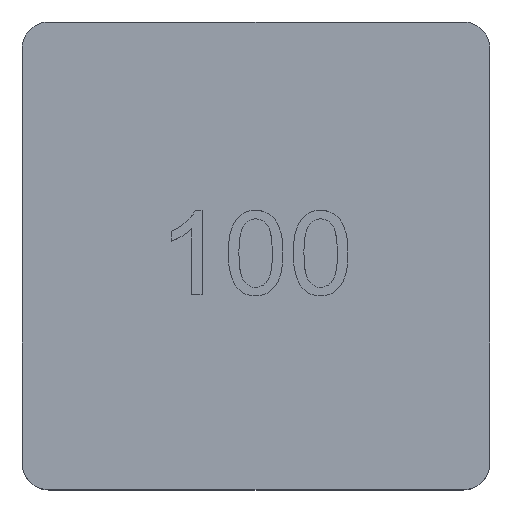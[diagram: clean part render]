
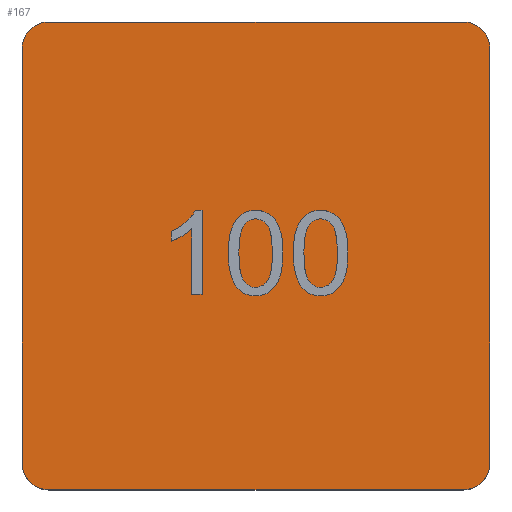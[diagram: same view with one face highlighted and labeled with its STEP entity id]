
A CAD part, top view. The second image highlights one B-rep face of the part: STEP entity #167.
In plain terms, the highlighted planar face has unit normal (0, 0, 1).
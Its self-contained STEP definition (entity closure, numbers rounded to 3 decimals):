
#51 = EDGE_CURVE('',#52,#54,#56,.T.);
#52 = VERTEX_POINT('',#53);
#53 = CARTESIAN_POINT('',(-4.,-3.55,4.2));
#54 = VERTEX_POINT('',#55);
#55 = CARTESIAN_POINT('',(-4.,3.55,4.2));
#56 = SURFACE_CURVE('',#57,(#61,#73),.PCURVE_S1.);
#57 = LINE('',#58,#59);
#58 = CARTESIAN_POINT('',(-4.,-4.,4.2));
#59 = VECTOR('',#60,1.);
#60 = DIRECTION('',(0.,1.,0.));
#61 = PCURVE('',#62,#67);
#62 = PLANE('',#63);
#63 = AXIS2_PLACEMENT_3D('',#64,#65,#66);
#64 = CARTESIAN_POINT('',(-4.,-4.,0.15));
#65 = DIRECTION('',(1.,0.,0.));
#66 = DIRECTION('',(0.,0.,1.));
#67 = DEFINITIONAL_REPRESENTATION('',(#68),#72);
#68 = LINE('',#69,#70);
#69 = CARTESIAN_POINT('',(4.05,0.));
#70 = VECTOR('',#71,1.);
#71 = DIRECTION('',(0.,-1.));
#72 = ( GEOMETRIC_REPRESENTATION_CONTEXT(2) 
PARAMETRIC_REPRESENTATION_CONTEXT() REPRESENTATION_CONTEXT('2D SPACE',''
  ) );
#73 = PCURVE('',#74,#79);
#74 = PLANE('',#75);
#75 = AXIS2_PLACEMENT_3D('',#76,#77,#78);
#76 = CARTESIAN_POINT('',(-4.,-4.,4.2));
#77 = DIRECTION('',(0.,0.,1.));
#78 = DIRECTION('',(1.,0.,0.));
#79 = DEFINITIONAL_REPRESENTATION('',(#80),#84);
#80 = LINE('',#81,#82);
#81 = CARTESIAN_POINT('',(0.,0.));
#82 = VECTOR('',#83,1.);
#83 = DIRECTION('',(0.,1.));
#84 = ( GEOMETRIC_REPRESENTATION_CONTEXT(2) 
PARAMETRIC_REPRESENTATION_CONTEXT() REPRESENTATION_CONTEXT('2D SPACE',''
  ) );
#102 = CYLINDRICAL_SURFACE('',#103,0.45);
#103 = AXIS2_PLACEMENT_3D('',#104,#105,#106);
#104 = CARTESIAN_POINT('',(-3.55,-3.55,0.15));
#105 = DIRECTION('',(0.,0.,1.));
#106 = DIRECTION('',(-1.,-0.,0.));
#156 = CYLINDRICAL_SURFACE('',#157,0.45);
#157 = AXIS2_PLACEMENT_3D('',#158,#159,#160);
#158 = CARTESIAN_POINT('',(-3.55,3.55,0.15));
#159 = DIRECTION('',(0.,0.,1.));
#160 = DIRECTION('',(-1.,-0.,0.));
#167 = ADVANCED_FACE('',(#168),#74,.T.);
#168 = FACE_BOUND('',#169,.T.);
#169 = EDGE_LOOP('',(#170,#171,#195,#223,#256,#284,#313,#341));
#170 = ORIENTED_EDGE('',*,*,#51,.F.);
#171 = ORIENTED_EDGE('',*,*,#172,.T.);
#172 = EDGE_CURVE('',#52,#173,#175,.T.);
#173 = VERTEX_POINT('',#174);
#174 = CARTESIAN_POINT('',(-3.55,-4.,4.2));
#175 = SURFACE_CURVE('',#176,(#181,#188),.PCURVE_S1.);
#176 = CIRCLE('',#177,0.45);
#177 = AXIS2_PLACEMENT_3D('',#178,#179,#180);
#178 = CARTESIAN_POINT('',(-3.55,-3.55,4.2));
#179 = DIRECTION('',(0.,0.,1.));
#180 = DIRECTION('',(0.,-1.,0.));
#181 = PCURVE('',#74,#182);
#182 = DEFINITIONAL_REPRESENTATION('',(#183),#187);
#183 = CIRCLE('',#184,0.45);
#184 = AXIS2_PLACEMENT_2D('',#185,#186);
#185 = CARTESIAN_POINT('',(0.45,0.45));
#186 = DIRECTION('',(0.,-1.));
#187 = ( GEOMETRIC_REPRESENTATION_CONTEXT(2) 
PARAMETRIC_REPRESENTATION_CONTEXT() REPRESENTATION_CONTEXT('2D SPACE',''
  ) );
#188 = PCURVE('',#102,#189);
#189 = DEFINITIONAL_REPRESENTATION('',(#190),#194);
#190 = LINE('',#191,#192);
#191 = CARTESIAN_POINT('',(-4.712,4.05));
#192 = VECTOR('',#193,1.);
#193 = DIRECTION('',(1.,0.));
#194 = ( GEOMETRIC_REPRESENTATION_CONTEXT(2) 
PARAMETRIC_REPRESENTATION_CONTEXT() REPRESENTATION_CONTEXT('2D SPACE',''
  ) );
#195 = ORIENTED_EDGE('',*,*,#196,.T.);
#196 = EDGE_CURVE('',#173,#197,#199,.T.);
#197 = VERTEX_POINT('',#198);
#198 = CARTESIAN_POINT('',(3.55,-4.,4.2));
#199 = SURFACE_CURVE('',#200,(#204,#211),.PCURVE_S1.);
#200 = LINE('',#201,#202);
#201 = CARTESIAN_POINT('',(-4.,-4.,4.2));
#202 = VECTOR('',#203,1.);
#203 = DIRECTION('',(1.,0.,0.));
#204 = PCURVE('',#74,#205);
#205 = DEFINITIONAL_REPRESENTATION('',(#206),#210);
#206 = LINE('',#207,#208);
#207 = CARTESIAN_POINT('',(0.,0.));
#208 = VECTOR('',#209,1.);
#209 = DIRECTION('',(1.,0.));
#210 = ( GEOMETRIC_REPRESENTATION_CONTEXT(2) 
PARAMETRIC_REPRESENTATION_CONTEXT() REPRESENTATION_CONTEXT('2D SPACE',''
  ) );
#211 = PCURVE('',#212,#217);
#212 = PLANE('',#213);
#213 = AXIS2_PLACEMENT_3D('',#214,#215,#216);
#214 = CARTESIAN_POINT('',(-4.,-4.,0.15));
#215 = DIRECTION('',(0.,1.,0.));
#216 = DIRECTION('',(0.,0.,1.));
#217 = DEFINITIONAL_REPRESENTATION('',(#218),#222);
#218 = LINE('',#219,#220);
#219 = CARTESIAN_POINT('',(4.05,0.));
#220 = VECTOR('',#221,1.);
#221 = DIRECTION('',(0.,1.));
#222 = ( GEOMETRIC_REPRESENTATION_CONTEXT(2) 
PARAMETRIC_REPRESENTATION_CONTEXT() REPRESENTATION_CONTEXT('2D SPACE',''
  ) );
#223 = ORIENTED_EDGE('',*,*,#224,.F.);
#224 = EDGE_CURVE('',#225,#197,#227,.T.);
#225 = VERTEX_POINT('',#226);
#226 = CARTESIAN_POINT('',(4.,-3.55,4.2));
#227 = SURFACE_CURVE('',#228,(#233,#244),.PCURVE_S1.);
#228 = CIRCLE('',#229,0.45);
#229 = AXIS2_PLACEMENT_3D('',#230,#231,#232);
#230 = CARTESIAN_POINT('',(3.55,-3.55,4.2));
#231 = DIRECTION('',(-0.,-0.,-1.));
#232 = DIRECTION('',(0.,-1.,0.));
#233 = PCURVE('',#74,#234);
#234 = DEFINITIONAL_REPRESENTATION('',(#235),#243);
#235 = ( BOUNDED_CURVE() B_SPLINE_CURVE(2,(#236,#237,#238,#239,#240,#241
,#242),.UNSPECIFIED.,.T.,.F.) B_SPLINE_CURVE_WITH_KNOTS((1,2,2,2,2,1),(
    -2.094,0.,2.094,4.189,6.283,
8.378),.UNSPECIFIED.) CURVE() GEOMETRIC_REPRESENTATION_ITEM() 
RATIONAL_B_SPLINE_CURVE((1.,0.5,1.,0.5,1.,0.5,1.)) REPRESENTATION_ITEM(
  '') );
#236 = CARTESIAN_POINT('',(7.55,0.));
#237 = CARTESIAN_POINT('',(6.771,0.));
#238 = CARTESIAN_POINT('',(7.16,0.675));
#239 = CARTESIAN_POINT('',(7.55,1.35));
#240 = CARTESIAN_POINT('',(7.94,0.675));
#241 = CARTESIAN_POINT('',(8.329,0.));
#242 = CARTESIAN_POINT('',(7.55,0.));
#243 = ( GEOMETRIC_REPRESENTATION_CONTEXT(2) 
PARAMETRIC_REPRESENTATION_CONTEXT() REPRESENTATION_CONTEXT('2D SPACE',''
  ) );
#244 = PCURVE('',#245,#250);
#245 = CYLINDRICAL_SURFACE('',#246,0.45);
#246 = AXIS2_PLACEMENT_3D('',#247,#248,#249);
#247 = CARTESIAN_POINT('',(3.55,-3.55,0.15));
#248 = DIRECTION('',(0.,0.,1.));
#249 = DIRECTION('',(1.,0.,-0.));
#250 = DEFINITIONAL_REPRESENTATION('',(#251),#255);
#251 = LINE('',#252,#253);
#252 = CARTESIAN_POINT('',(4.712,4.05));
#253 = VECTOR('',#254,1.);
#254 = DIRECTION('',(-1.,0.));
#255 = ( GEOMETRIC_REPRESENTATION_CONTEXT(2) 
PARAMETRIC_REPRESENTATION_CONTEXT() REPRESENTATION_CONTEXT('2D SPACE',''
  ) );
#256 = ORIENTED_EDGE('',*,*,#257,.T.);
#257 = EDGE_CURVE('',#225,#258,#260,.T.);
#258 = VERTEX_POINT('',#259);
#259 = CARTESIAN_POINT('',(4.,3.55,4.2));
#260 = SURFACE_CURVE('',#261,(#265,#272),.PCURVE_S1.);
#261 = LINE('',#262,#263);
#262 = CARTESIAN_POINT('',(4.,-4.,4.2));
#263 = VECTOR('',#264,1.);
#264 = DIRECTION('',(0.,1.,0.));
#265 = PCURVE('',#74,#266);
#266 = DEFINITIONAL_REPRESENTATION('',(#267),#271);
#267 = LINE('',#268,#269);
#268 = CARTESIAN_POINT('',(8.,0.));
#269 = VECTOR('',#270,1.);
#270 = DIRECTION('',(0.,1.));
#271 = ( GEOMETRIC_REPRESENTATION_CONTEXT(2) 
PARAMETRIC_REPRESENTATION_CONTEXT() REPRESENTATION_CONTEXT('2D SPACE',''
  ) );
#272 = PCURVE('',#273,#278);
#273 = PLANE('',#274);
#274 = AXIS2_PLACEMENT_3D('',#275,#276,#277);
#275 = CARTESIAN_POINT('',(4.,-4.,0.15));
#276 = DIRECTION('',(1.,0.,0.));
#277 = DIRECTION('',(0.,0.,1.));
#278 = DEFINITIONAL_REPRESENTATION('',(#279),#283);
#279 = LINE('',#280,#281);
#280 = CARTESIAN_POINT('',(4.05,0.));
#281 = VECTOR('',#282,1.);
#282 = DIRECTION('',(0.,-1.));
#283 = ( GEOMETRIC_REPRESENTATION_CONTEXT(2) 
PARAMETRIC_REPRESENTATION_CONTEXT() REPRESENTATION_CONTEXT('2D SPACE',''
  ) );
#284 = ORIENTED_EDGE('',*,*,#285,.T.);
#285 = EDGE_CURVE('',#258,#286,#288,.T.);
#286 = VERTEX_POINT('',#287);
#287 = CARTESIAN_POINT('',(3.55,4.,4.2));
#288 = SURFACE_CURVE('',#289,(#294,#301),.PCURVE_S1.);
#289 = CIRCLE('',#290,0.45);
#290 = AXIS2_PLACEMENT_3D('',#291,#292,#293);
#291 = CARTESIAN_POINT('',(3.55,3.55,4.2));
#292 = DIRECTION('',(0.,0.,1.));
#293 = DIRECTION('',(0.,-1.,0.));
#294 = PCURVE('',#74,#295);
#295 = DEFINITIONAL_REPRESENTATION('',(#296),#300);
#296 = CIRCLE('',#297,0.45);
#297 = AXIS2_PLACEMENT_2D('',#298,#299);
#298 = CARTESIAN_POINT('',(7.55,7.55));
#299 = DIRECTION('',(0.,-1.));
#300 = ( GEOMETRIC_REPRESENTATION_CONTEXT(2) 
PARAMETRIC_REPRESENTATION_CONTEXT() REPRESENTATION_CONTEXT('2D SPACE',''
  ) );
#301 = PCURVE('',#302,#307);
#302 = CYLINDRICAL_SURFACE('',#303,0.45);
#303 = AXIS2_PLACEMENT_3D('',#304,#305,#306);
#304 = CARTESIAN_POINT('',(3.55,3.55,0.15));
#305 = DIRECTION('',(0.,0.,1.));
#306 = DIRECTION('',(1.,0.,-0.));
#307 = DEFINITIONAL_REPRESENTATION('',(#308),#312);
#308 = LINE('',#309,#310);
#309 = CARTESIAN_POINT('',(-1.571,4.05));
#310 = VECTOR('',#311,1.);
#311 = DIRECTION('',(1.,0.));
#312 = ( GEOMETRIC_REPRESENTATION_CONTEXT(2) 
PARAMETRIC_REPRESENTATION_CONTEXT() REPRESENTATION_CONTEXT('2D SPACE',''
  ) );
#313 = ORIENTED_EDGE('',*,*,#314,.F.);
#314 = EDGE_CURVE('',#315,#286,#317,.T.);
#315 = VERTEX_POINT('',#316);
#316 = CARTESIAN_POINT('',(-3.55,4.,4.2));
#317 = SURFACE_CURVE('',#318,(#322,#329),.PCURVE_S1.);
#318 = LINE('',#319,#320);
#319 = CARTESIAN_POINT('',(-4.,4.,4.2));
#320 = VECTOR('',#321,1.);
#321 = DIRECTION('',(1.,0.,0.));
#322 = PCURVE('',#74,#323);
#323 = DEFINITIONAL_REPRESENTATION('',(#324),#328);
#324 = LINE('',#325,#326);
#325 = CARTESIAN_POINT('',(0.,8.));
#326 = VECTOR('',#327,1.);
#327 = DIRECTION('',(1.,0.));
#328 = ( GEOMETRIC_REPRESENTATION_CONTEXT(2) 
PARAMETRIC_REPRESENTATION_CONTEXT() REPRESENTATION_CONTEXT('2D SPACE',''
  ) );
#329 = PCURVE('',#330,#335);
#330 = PLANE('',#331);
#331 = AXIS2_PLACEMENT_3D('',#332,#333,#334);
#332 = CARTESIAN_POINT('',(-4.,4.,0.15));
#333 = DIRECTION('',(0.,1.,0.));
#334 = DIRECTION('',(0.,0.,1.));
#335 = DEFINITIONAL_REPRESENTATION('',(#336),#340);
#336 = LINE('',#337,#338);
#337 = CARTESIAN_POINT('',(4.05,0.));
#338 = VECTOR('',#339,1.);
#339 = DIRECTION('',(0.,1.));
#340 = ( GEOMETRIC_REPRESENTATION_CONTEXT(2) 
PARAMETRIC_REPRESENTATION_CONTEXT() REPRESENTATION_CONTEXT('2D SPACE',''
  ) );
#341 = ORIENTED_EDGE('',*,*,#342,.F.);
#342 = EDGE_CURVE('',#54,#315,#343,.T.);
#343 = SURFACE_CURVE('',#344,(#349,#360),.PCURVE_S1.);
#344 = CIRCLE('',#345,0.45);
#345 = AXIS2_PLACEMENT_3D('',#346,#347,#348);
#346 = CARTESIAN_POINT('',(-3.55,3.55,4.2));
#347 = DIRECTION('',(-0.,-0.,-1.));
#348 = DIRECTION('',(0.,-1.,0.));
#349 = PCURVE('',#74,#350);
#350 = DEFINITIONAL_REPRESENTATION('',(#351),#359);
#351 = ( BOUNDED_CURVE() B_SPLINE_CURVE(2,(#352,#353,#354,#355,#356,#357
,#358),.UNSPECIFIED.,.T.,.F.) B_SPLINE_CURVE_WITH_KNOTS((1,2,2,2,2,1),(
    -2.094,0.,2.094,4.189,6.283,
8.378),.UNSPECIFIED.) CURVE() GEOMETRIC_REPRESENTATION_ITEM() 
RATIONAL_B_SPLINE_CURVE((1.,0.5,1.,0.5,1.,0.5,1.)) REPRESENTATION_ITEM(
  '') );
#352 = CARTESIAN_POINT('',(0.45,7.1));
#353 = CARTESIAN_POINT('',(-0.329,7.1));
#354 = CARTESIAN_POINT('',(0.06,7.775));
#355 = CARTESIAN_POINT('',(0.45,8.45));
#356 = CARTESIAN_POINT('',(0.84,7.775));
#357 = CARTESIAN_POINT('',(1.229,7.1));
#358 = CARTESIAN_POINT('',(0.45,7.1));
#359 = ( GEOMETRIC_REPRESENTATION_CONTEXT(2) 
PARAMETRIC_REPRESENTATION_CONTEXT() REPRESENTATION_CONTEXT('2D SPACE',''
  ) );
#360 = PCURVE('',#156,#361);
#361 = DEFINITIONAL_REPRESENTATION('',(#362),#366);
#362 = LINE('',#363,#364);
#363 = CARTESIAN_POINT('',(1.571,4.05));
#364 = VECTOR('',#365,1.);
#365 = DIRECTION('',(-1.,0.));
#366 = ( GEOMETRIC_REPRESENTATION_CONTEXT(2) 
PARAMETRIC_REPRESENTATION_CONTEXT() REPRESENTATION_CONTEXT('2D SPACE',''
  ) );
